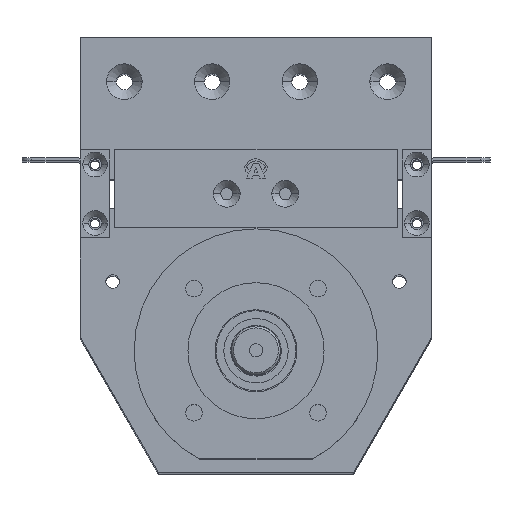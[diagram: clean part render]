
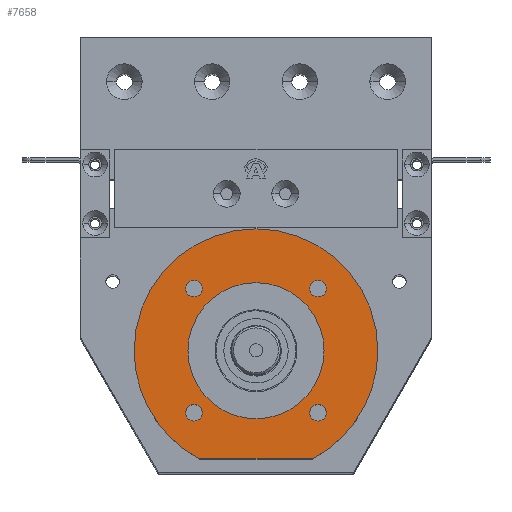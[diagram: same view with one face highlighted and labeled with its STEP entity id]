
A CAD part, top view. The second image highlights one B-rep face of the part: STEP entity #7658.
In plain terms, the highlighted planar face has unit normal (0, 0, 1).
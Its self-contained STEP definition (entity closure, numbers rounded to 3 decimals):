
#725 = DIRECTION ( 'NONE',  ( 0., 0., 1. ) ) ;
#735 = DIRECTION ( 'NONE',  ( 0., 0., -1. ) ) ;
#754 = CARTESIAN_POINT ( 'NONE',  ( 0., 62.5, 241.5 ) ) ;
#770 = CARTESIAN_POINT ( 'NONE',  ( -31.82, 30.68, 241.5 ) ) ;
#801 = DIRECTION ( 'NONE',  ( -1., 0., 0. ) ) ;
#816 = DIRECTION ( 'NONE',  ( 1., 0., 0. ) ) ;
#2889 = EDGE_CURVE ( 'NONE', #13667, #13673, #14864, .T. ) ;
#2894 = EDGE_CURVE ( 'NONE', #13673, #13680, #14873, .T. ) ;
#2914 = EDGE_CURVE ( 'NONE', #14522, #13457, #14904, .T. ) ;
#2923 = EDGE_CURVE ( 'NONE', #14448, #14453, #14918, .T. ) ;
#2943 = EDGE_CURVE ( 'NONE', #13500, #13456, #14948, .T. ) ;
#2947 = EDGE_CURVE ( 'NONE', #13504, #13502, #14958, .T. ) ;
#2964 = EDGE_CURVE ( 'NONE', #13536, #13523, #14987, .T. ) ;
#3067 = EDGE_CURVE ( 'NONE', #13523, #13536, #15155, .T. ) ;
#3069 = EDGE_CURVE ( 'NONE', #13502, #13504, #15157, .T. ) ;
#3071 = EDGE_CURVE ( 'NONE', #13456, #13500, #15159, .T. ) ;
#3074 = EDGE_CURVE ( 'NONE', #14453, #14448, #15162, .T. ) ;
#3075 = EDGE_CURVE ( 'NONE', #13457, #14522, #15163, .T. ) ;
#3077 = EDGE_CURVE ( 'NONE', #13680, #13506, #15152, .T. ) ;
#3081 = EDGE_CURVE ( 'NONE', #13667, #13506, #15169, .T. ) ;
#3844 = ORIENTED_EDGE ( 'NONE', *, *, #3081, .F. ) ;
#3854 = ORIENTED_EDGE ( 'NONE', *, *, #3077, .T. ) ;
#3856 = ORIENTED_EDGE ( 'NONE', *, *, #2889, .T. ) ;
#3858 = ORIENTED_EDGE ( 'NONE', *, *, #2894, .T. ) ;
#3859 = ORIENTED_EDGE ( 'NONE', *, *, #2964, .F. ) ;
#3860 = ORIENTED_EDGE ( 'NONE', *, *, #3074, .T. ) ;
#3861 = ORIENTED_EDGE ( 'NONE', *, *, #3075, .T. ) ;
#3862 = ORIENTED_EDGE ( 'NONE', *, *, #2914, .T. ) ;
#3863 = ORIENTED_EDGE ( 'NONE', *, *, #3067, .F. ) ;
#3864 = ORIENTED_EDGE ( 'NONE', *, *, #2943, .T. ) ;
#3865 = ORIENTED_EDGE ( 'NONE', *, *, #3069, .T. ) ;
#3866 = ORIENTED_EDGE ( 'NONE', *, *, #2947, .T. ) ;
#3867 = ORIENTED_EDGE ( 'NONE', *, *, #2923, .T. ) ;
#3868 = ORIENTED_EDGE ( 'NONE', *, *, #3071, .T. ) ;
#5019 = CARTESIAN_POINT ( 'NONE',  ( 36.07, 94.32, 241.5 ) ) ;
#5023 = CARTESIAN_POINT ( 'NONE',  ( 27.57, 94.32, 241.5 ) ) ;
#5086 = CARTESIAN_POINT ( 'NONE',  ( -27.57, 94.32, 241.5 ) ) ;
#6753 = AXIS2_PLACEMENT_3D ( 'NONE', #12343, #12340, #12338 ) ;
#6755 = AXIS2_PLACEMENT_3D ( 'NONE', #12167, #12164, #12165 ) ;
#6764 = AXIS2_PLACEMENT_3D ( 'NONE', #12372, #12354, #12351 ) ;
#6768 = AXIS2_PLACEMENT_3D ( 'NONE', #12303, #12302, #12301 ) ;
#6774 = AXIS2_PLACEMENT_3D ( 'NONE', #12321, #12320, #12318 ) ;
#6776 = AXIS2_PLACEMENT_3D ( 'NONE', #12116, #12120, #12121 ) ;
#6780 = AXIS2_PLACEMENT_3D ( 'NONE', #12357, #12359, #12145 ) ;
#6820 = AXIS2_PLACEMENT_3D ( 'NONE', #754, #725, #816 ) ;
#6822 = AXIS2_PLACEMENT_3D ( 'NONE', #770, #735, #801 ) ;
#6824 = AXIS2_PLACEMENT_3D ( 'NONE', #12462, #12438, #12431 ) ;
#6827 = AXIS2_PLACEMENT_3D ( 'NONE', #12439, #12440, #12441 ) ;
#6828 = AXIS2_PLACEMENT_3D ( 'NONE', #12442, #12443, #12444 ) ;
#6830 = AXIS2_PLACEMENT_3D ( 'NONE', #12448, #12449, #12450 ) ;
#7658 = ADVANCED_FACE ( 'NONE', ( #10991, #10999, #10995, #10993, #10997, #11000 ), #9484, .F. ) ;
#9482 = DIRECTION ( 'NONE',  ( 0., 0., -1. ) ) ;
#9484 = PLANE ( 'NONE',  #14005 ) ;
#9486 = CARTESIAN_POINT ( 'NONE',  ( 0., 125., 241.5 ) ) ;
#9488 = DIRECTION ( 'NONE',  ( -1., 0., 0. ) ) ;
#9798 = CARTESIAN_POINT ( 'NONE',  ( 27.57, 30.68, 241.5 ) ) ;
#9799 = CARTESIAN_POINT ( 'NONE',  ( -36.07, 94.32, 241.5 ) ) ;
#9842 = CARTESIAN_POINT ( 'NONE',  ( 36.07, 30.68, 241.5 ) ) ;
#9844 = CARTESIAN_POINT ( 'NONE',  ( -36.07, 30.68, 241.5 ) ) ;
#9846 = CARTESIAN_POINT ( 'NONE',  ( -27.57, 30.68, 241.5 ) ) ;
#9848 = CARTESIAN_POINT ( 'NONE',  ( -28.74, 7., 241.5 ) ) ;
#9865 = CARTESIAN_POINT ( 'NONE',  ( -34.9, 62.5, 241.5 ) ) ;
#9878 = CARTESIAN_POINT ( 'NONE',  ( 34.9, 62.5, 241.5 ) ) ;
#10009 = CARTESIAN_POINT ( 'NONE',  ( 28.74, 7., 241.5 ) ) ;
#10015 = CARTESIAN_POINT ( 'NONE',  ( 62.5, 62.5, 241.5 ) ) ;
#10021 = CARTESIAN_POINT ( 'NONE',  ( -62.5, 62.5, 241.5 ) ) ;
#10991 = FACE_BOUND ( 'NONE', #14375, .T. ) ;
#10993 = FACE_BOUND ( 'NONE', #14169, .T. ) ;
#10995 = FACE_BOUND ( 'NONE', #14171, .T. ) ;
#10997 = FACE_BOUND ( 'NONE', #14379, .T. ) ;
#10999 = FACE_BOUND ( 'NONE', #14139, .T. ) ;
#11000 = FACE_OUTER_BOUND ( 'NONE', #14376, .T. ) ;
#12116 = CARTESIAN_POINT ( 'NONE',  ( -31.82, 30.68, 241.5 ) ) ;
#12120 = DIRECTION ( 'NONE',  ( 0., 0., -1. ) ) ;
#12121 = DIRECTION ( 'NONE',  ( -1., 0., 0. ) ) ;
#12145 = DIRECTION ( 'NONE',  ( 1., 0., 0. ) ) ;
#12164 = DIRECTION ( 'NONE',  ( 0., 0., 1. ) ) ;
#12165 = DIRECTION ( 'NONE',  ( 1., 0., 0. ) ) ;
#12167 = CARTESIAN_POINT ( 'NONE',  ( 0., 62.5, 241.5 ) ) ;
#12301 = DIRECTION ( 'NONE',  ( -1., 0., 0. ) ) ;
#12302 = DIRECTION ( 'NONE',  ( 0., 0., -1. ) ) ;
#12303 = CARTESIAN_POINT ( 'NONE',  ( 31.82, 94.32, 241.5 ) ) ;
#12318 = DIRECTION ( 'NONE',  ( -1., 0., 0. ) ) ;
#12320 = DIRECTION ( 'NONE',  ( 0., 0., -1. ) ) ;
#12321 = CARTESIAN_POINT ( 'NONE',  ( 31.82, 30.68, 241.5 ) ) ;
#12338 = DIRECTION ( 'NONE',  ( 1., 0., 0. ) ) ;
#12340 = DIRECTION ( 'NONE',  ( 0., 0., 1. ) ) ;
#12343 = CARTESIAN_POINT ( 'NONE',  ( 0., 62.5, 241.5 ) ) ;
#12351 = DIRECTION ( 'NONE',  ( -1., 0., 0. ) ) ;
#12354 = DIRECTION ( 'NONE',  ( 0., 0., -1. ) ) ;
#12357 = CARTESIAN_POINT ( 'NONE',  ( 0., 62.5, 241.5 ) ) ;
#12359 = DIRECTION ( 'NONE',  ( 0., 0., 1. ) ) ;
#12372 = CARTESIAN_POINT ( 'NONE',  ( -31.82, 94.32, 241.5 ) ) ;
#12431 = DIRECTION ( 'NONE',  ( -1., 0., 0. ) ) ;
#12438 = DIRECTION ( 'NONE',  ( 0., 0., -1. ) ) ;
#12439 = CARTESIAN_POINT ( 'NONE',  ( 31.82, 94.32, 241.5 ) ) ;
#12440 = DIRECTION ( 'NONE',  ( 0., 0., -1. ) ) ;
#12441 = DIRECTION ( 'NONE',  ( -1., 0., 0. ) ) ;
#12442 = CARTESIAN_POINT ( 'NONE',  ( -31.82, 94.32, 241.5 ) ) ;
#12443 = DIRECTION ( 'NONE',  ( 0., 0., -1. ) ) ;
#12444 = DIRECTION ( 'NONE',  ( -1., 0., 0. ) ) ;
#12448 = CARTESIAN_POINT ( 'NONE',  ( 0., 62.5, 241.5 ) ) ;
#12449 = DIRECTION ( 'NONE',  ( 0., 0., 1. ) ) ;
#12450 = DIRECTION ( 'NONE',  ( 1., 0., 0. ) ) ;
#12462 = CARTESIAN_POINT ( 'NONE',  ( 31.82, 30.68, 241.5 ) ) ;
#12466 = DIRECTION ( 'NONE',  ( -1., 0., 0. ) ) ;
#12467 = CARTESIAN_POINT ( 'NONE',  ( 28.74, 7., 241.5 ) ) ;
#13456 = VERTEX_POINT ( 'NONE', #9798 ) ;
#13457 = VERTEX_POINT ( 'NONE', #9799 ) ;
#13500 = VERTEX_POINT ( 'NONE', #9842 ) ;
#13502 = VERTEX_POINT ( 'NONE', #9844 ) ;
#13504 = VERTEX_POINT ( 'NONE', #9846 ) ;
#13506 = VERTEX_POINT ( 'NONE', #9848 ) ;
#13523 = VERTEX_POINT ( 'NONE', #9865 ) ;
#13536 = VERTEX_POINT ( 'NONE', #9878 ) ;
#13667 = VERTEX_POINT ( 'NONE', #10009 ) ;
#13673 = VERTEX_POINT ( 'NONE', #10015 ) ;
#13680 = VERTEX_POINT ( 'NONE', #10021 ) ;
#14005 = AXIS2_PLACEMENT_3D ( 'NONE', #9486, #9482, #9488 ) ;
#14139 = EDGE_LOOP ( 'NONE', ( #3868, #3864 ) ) ;
#14169 = EDGE_LOOP ( 'NONE', ( #3861, #3862 ) ) ;
#14171 = EDGE_LOOP ( 'NONE', ( #3860, #3867 ) ) ;
#14375 = EDGE_LOOP ( 'NONE', ( #3865, #3866 ) ) ;
#14376 = EDGE_LOOP ( 'NONE', ( #3856, #3858, #3854, #3844 ) ) ;
#14379 = EDGE_LOOP ( 'NONE', ( #3859, #3863 ) ) ;
#14448 = VERTEX_POINT ( 'NONE', #5019 ) ;
#14453 = VERTEX_POINT ( 'NONE', #5023 ) ;
#14522 = VERTEX_POINT ( 'NONE', #5086 ) ;
#14864 = CIRCLE ( 'NONE', #6753, 62.5 ) ;
#14873 = CIRCLE ( 'NONE', #6755, 62.5 ) ;
#14904 = CIRCLE ( 'NONE', #6764, 4.25 ) ;
#14918 = CIRCLE ( 'NONE', #6768, 4.25 ) ;
#14948 = CIRCLE ( 'NONE', #6774, 4.25 ) ;
#14958 = CIRCLE ( 'NONE', #6776, 4.25 ) ;
#14987 = CIRCLE ( 'NONE', #6780, 34.9 ) ;
#15152 = CIRCLE ( 'NONE', #6830, 62.5 ) ;
#15155 = CIRCLE ( 'NONE', #6820, 34.9 ) ;
#15157 = CIRCLE ( 'NONE', #6822, 4.25 ) ;
#15159 = CIRCLE ( 'NONE', #6824, 4.25 ) ;
#15162 = CIRCLE ( 'NONE', #6827, 4.25 ) ;
#15163 = CIRCLE ( 'NONE', #6828, 4.25 ) ;
#15169 = LINE ( 'NONE', #12467, #15172 ) ;
#15172 = VECTOR ( 'NONE', #12466, 1000. ) ;
